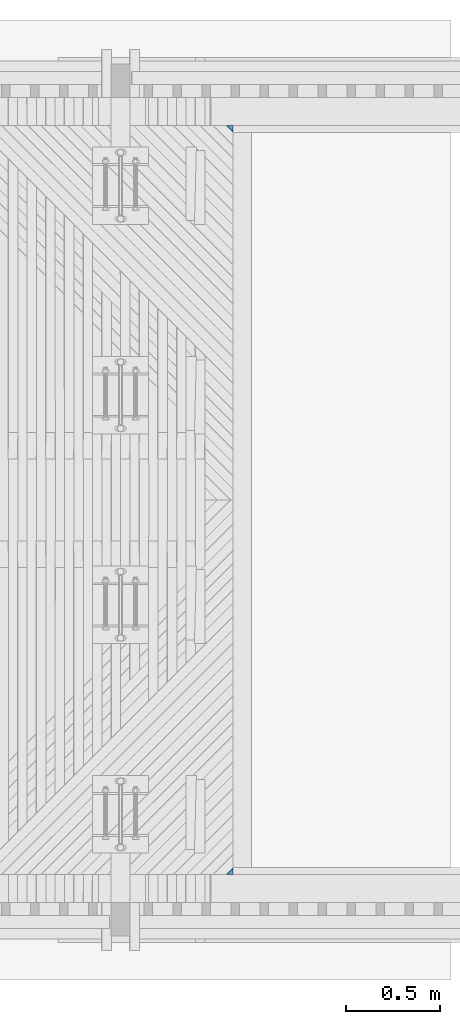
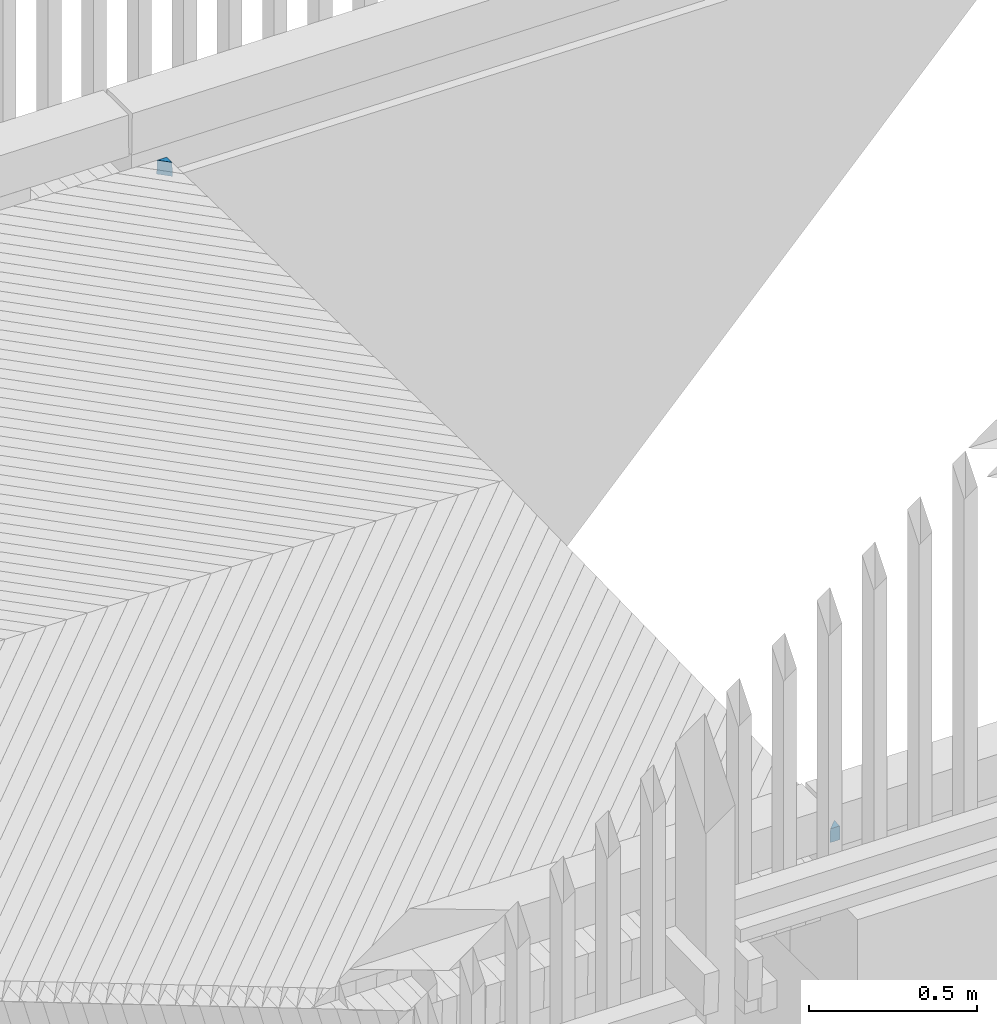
# One storey, part 51 of 52: 2 beams.
"""IFC2X3 building model written with IfcOpenShell, lengths in millimetres."""

from ifc_helpers import new_model, si_unit, frame, origin_with_axes, place, context, subcontext, project, spatial, faceted_brep, material, type_object, element, save


model = new_model("IFC2X3")

# Units and contexts
model_context = context("Model", 3, precision=1e-05, world=origin_with_axes())
body_context = subcontext(model_context, "Body", "Model", "MODEL_VIEW")
ifc_project = project(units=[si_unit("LENGTHUNIT", "METRE", prefix="MILLI"), si_unit("AREAUNIT", "SQUARE_METRE"), si_unit("VOLUMEUNIT", "CUBIC_METRE"), si_unit("MASSUNIT", "GRAM", prefix="KILO"), si_unit("TIMEUNIT", "SECOND"), si_unit("PLANEANGLEUNIT", "RADIAN"), si_unit("SOLIDANGLEUNIT", "STERADIAN"), si_unit("THERMODYNAMICTEMPERATUREUNIT", "DEGREE_CELSIUS"), si_unit("LUMINOUSINTENSITYUNIT", "LUMEN")], contexts=[model_context])

# Site, building, storey
site_placement = place(None, origin_with_axes())
site = spatial("IfcSite", under=ifc_project, at=site_placement, Name="Undefined", CompositionType="ELEMENT")
building_placement = place(site_placement, origin_with_axes())
building = spatial("IfcBuilding", under=site, at=building_placement, Name="Undefined", CompositionType="ELEMENT")
storey_placement = place(building_placement, origin_with_axes())
storey = spatial("IfcBuildingStorey", under=building, at=storey_placement, Name="Undefined", CompositionType="ELEMENT", Elevation=0.0)

# Beams
ifc_material = material(Name="TIMBER/Timber_Undefined")
beam_type = type_object("IfcBeamType", Name="50*50", PredefinedType="NOTDEFINED")
beam_1_placement = place(storey_placement, frame((18602.4451192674, 2364.50010032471, 3142.76655719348), z_axis=(0.706778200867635, -0.706981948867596, -0.025319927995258), x_axis=(-0.707258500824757, -0.706948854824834, -0.00295460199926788)))
element("IfcBeam", 1, at=beam_1_placement, inside=storey, type_object=beam_type, material=ifc_material, Name="BEAM", ObjectType="50*50", context=body_context, shape_type="Brep", body=[
    faceted_brep([(2854.34301907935, 25.0, -24.9999999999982), (2805.73564804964, 25.0, -25.0), (2830.03050958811, 25.0000000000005, -0.688628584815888), (2852.92877373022, -25.0, -24.9999999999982), (2829.88273146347, -25.0, -1.95503652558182), (2806.85341784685, -25.0, -25.0)], [[[0, 1, 2]], [[3, 0, 2, 4]], [[3, 4, 5]], [[0, 3, 5, 1]], [[4, 2, 1, 5]]]),
])
beam_2_placement = place(storey_placement, frame((18602.4451192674, 2365.49989967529, 3142.76655719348), z_axis=(0.706778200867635, 0.706981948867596, -0.025319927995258), x_axis=(-0.707258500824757, 0.706948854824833, -0.00295460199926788)))
element("IfcBeam", 2, at=beam_2_placement, inside=storey, type_object=beam_type, material=ifc_material, Name="BEAM", ObjectType="50*50", context=body_context, shape_type="Brep", body=[
    faceted_brep([(2854.34301907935, -24.9999999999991, -25.0), (2852.92877373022, 25.0000000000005, -25.0), (2829.88273146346, 25.0000000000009, -1.95503652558), (2830.03050958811, -24.9999999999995, -0.688628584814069), (2805.73564804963, -24.9999999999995, -25.0), (2806.85341784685, 25.0000000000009, -25.0)], [[[0, 1, 2, 3]], [[0, 3, 4]], [[1, 0, 4, 5]], [[1, 5, 2]], [[4, 3, 2, 5]]]),
])

save(model, "model.ifc")
